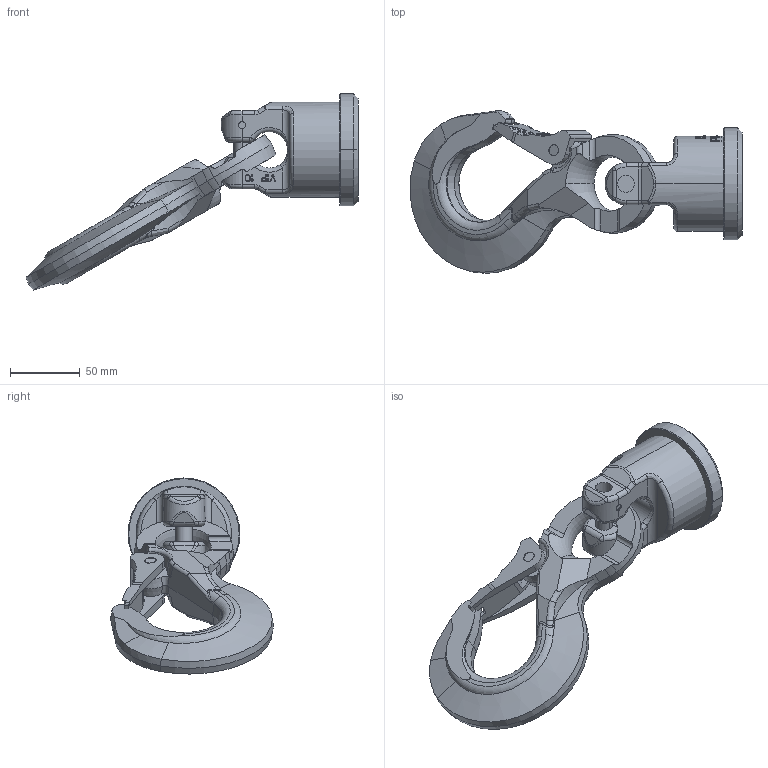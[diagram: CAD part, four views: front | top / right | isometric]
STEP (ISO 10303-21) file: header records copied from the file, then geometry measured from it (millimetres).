
FILE_DESCRIPTION((''),'2;1');
FILE_NAME('001-M31341-P-40_ASM','2018-04-27T',('Anja.Joas'),(''),'PRO/ENGINEER BY PARAMETRIC TECHNOLOGY CORPORATION, 2011490','PRO/ENGINEER BY PARAMETRIC TECHNOLOGY CORPORATION, 2011490','');
FILE_SCHEMA(('CONFIG_CONTROL_DESIGN'));
Length unit declared in the file: millimetre
Products named in the file (6): 001-M31341-P-20; 001-M31341-P-50; 001-M31166-001; 001-M31192-001; 001-M31166-002_ASM; 001-M31341-P-40_ASM
Assembly tree (5 placements, depth 3):
  001-M31341-P-40_ASM
    001-M31341-P-20
    001-M31341-P-50
    001-M31166-002_ASM
      001-M31166-001
      001-M31192-001
Bounding box: 237.6 x 116.5 x 140.34 mm (x, y, z)
Volume: 478012.5 mm3; surface area: 80763.6 mm2
Topology: 4 solids, 4 shells, 711 faces, 1922 edges, 1226 vertices
Faces by surface type: plane 438, cylinder 119, bspline 46, cone 40, torus 34, sphere 34
Entity records: 25399 total; most frequent: CARTESIAN_POINT 8220, ORIENTED_EDGE 3788, DIRECTION 3228, EDGE_CURVE 1894, VERTEX_POINT 1226, AXIS2_PLACEMENT_3D 1096, VECTOR 1036, LINE 1036
